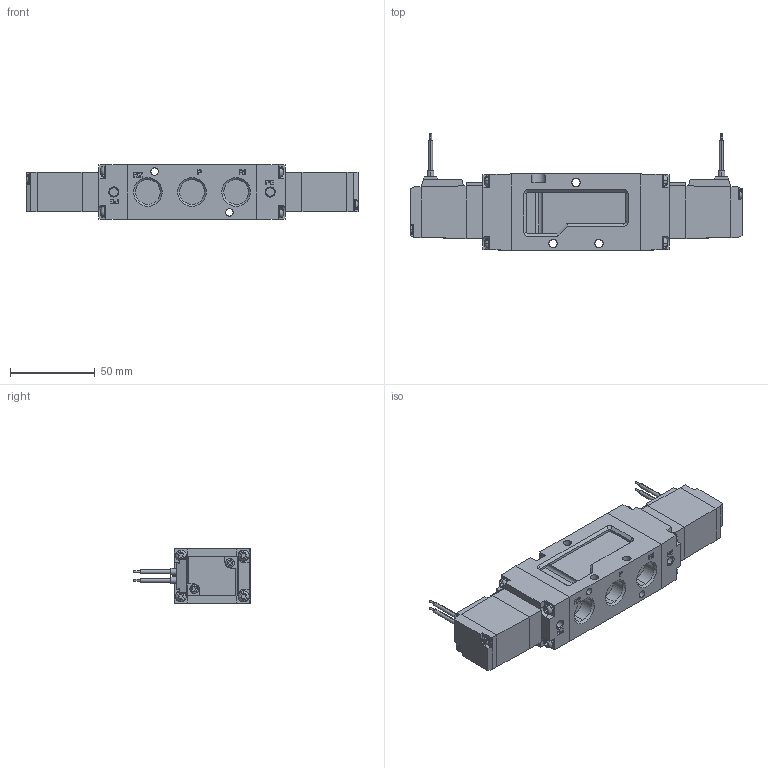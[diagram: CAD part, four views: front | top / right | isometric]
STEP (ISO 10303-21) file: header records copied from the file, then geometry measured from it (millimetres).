
FILE_DESCRIPTION (( 'STEP AP203' ), '1' );
FILE_NAME ('RKD2450-03-#-L.STEP', '2016-02-17T01:14:02', ( 'Sam Lin' ), ( '' ), 'SwSTEP 2.0', 'SolidWorks 2013', '' );
FILE_SCHEMA (( 'CONFIG_CONTROL_DESIGN' ));
Length unit declared in the file: metre
Products named in the file (10): PILOT_BODY_1; PILOT_COVER; PILOT_COVER_1; ADAPTER_SV300; RKD2450-03-#-L; ADAPTER_SV300_1; BODY_SV300; COIL_ASM; COIL_ASM_1; PILOT_BODY
Assembly tree (9 placements, depth 2):
  RKD2450-03-#-L
    ADAPTER_SV300
    ADAPTER_SV300_1
    BODY_SV300
    COIL_ASM
    COIL_ASM_1
    PILOT_BODY
    PILOT_BODY_1
    PILOT_COVER
    PILOT_COVER_1
Bounding box: 195.6 x 68.8 x 32 mm (x, y, z)
Volume: 202274.6 mm3; surface area: 50341.7 mm2
Topology: 9 solids, 9 shells, 838 faces, 2240 edges, 1472 vertices
Faces by surface type: plane 595, cylinder 175, torus 44, cone 20, bspline 4
Entity records: 30255 total; most frequent: CARTESIAN_POINT 8944, ORIENTED_EDGE 4480, DIRECTION 3739, EDGE_CURVE 2240, VERTEX_POINT 1472, LINE 1453, VECTOR 1453, AXIS2_PLACEMENT_3D 1143
